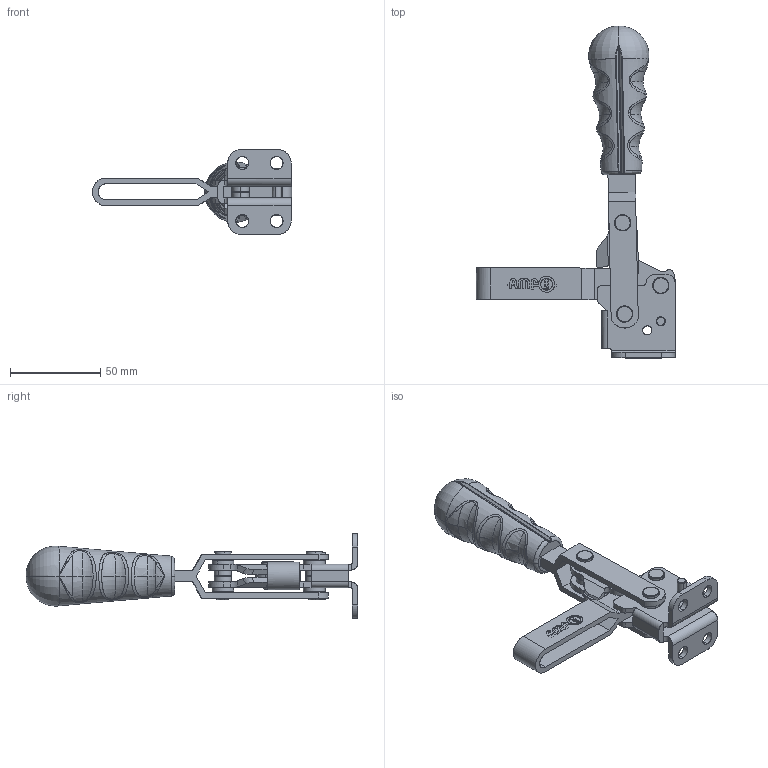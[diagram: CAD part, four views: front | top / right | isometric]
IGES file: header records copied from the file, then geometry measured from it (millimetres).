
Start section: Comment
Global section: file name: 12502b.igs; native system:  By Spatial Corp.; preprocessor: XPlus PS/IGES 3.0; author: Author; organization: Title; date: 20050216.171846; units: inch
Bounding box: 110.13 x 183.46 x 47 mm (x, y, z)
Surface area: 47526.9 mm2 (no closed solid volume)
Topology: 0 solids, 0 shells, 494 faces, 2455 edges, 2448 vertices
Faces by surface type: revolution 269, extrusion 173, bspline 52
